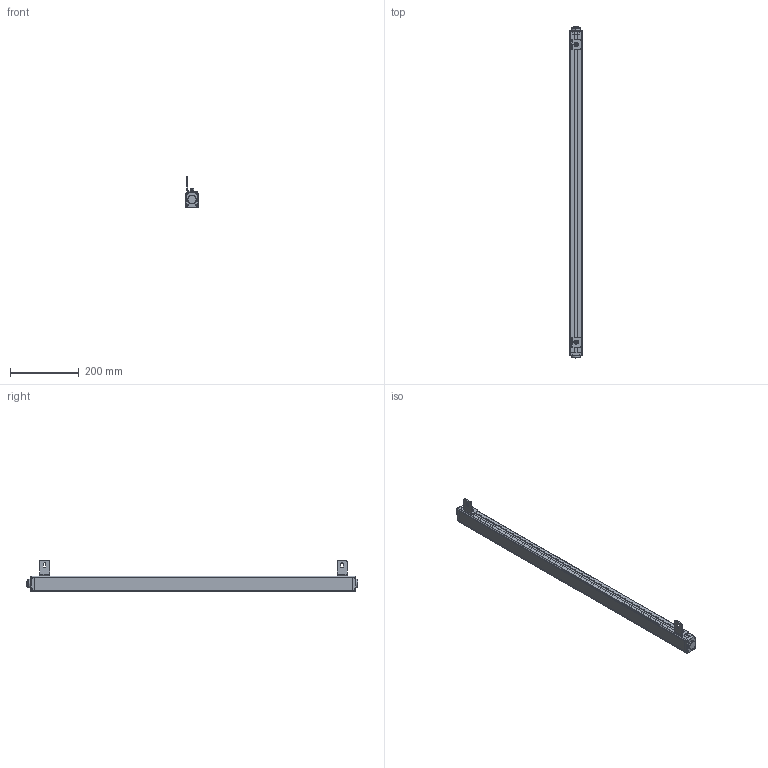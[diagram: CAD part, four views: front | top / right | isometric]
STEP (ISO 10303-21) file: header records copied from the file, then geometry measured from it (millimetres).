
FILE_DESCRIPTION((''),'2;1');
FILE_NAME('ESCL-00_ASM','2021-07-17T12:19:39',('18720616900'),(''),'CREO PARAMETRIC BY PTC INC, 2019010','CREO PARAMETRIC BY PTC INC, 2019010','');
FILE_SCHEMA(('CONFIG_CONTROL_DESIGN'));
Products named in the file (12): ESCL-00; ESCL-3-SOLID1000; ESCL-4-SOLID1000; HKCT1_-4-SOLID1; L10001; M6-8--0001; M6-1--00; M6-1-00; 00; M6-80001_ASM; L1--0001_ASM; ESCL-00_ASM
Assembly tree (12 placements, depth 4):
  ESCL-00_ASM
    ESCL-00
    ESCL-3-SOLID1000
    ESCL-4-SOLID1000
    HKCT1_-4-SOLID1
    L1--0001_ASM  x2
      L10001
      M6-80001_ASM
        M6-8--0001
        M6-1--00
        M6-1-00
        00
Bounding box: 36.1 x 965.1 x 91.11 mm (x, y, z)
Volume: 1377179.7 mm3; surface area: 209622.2 mm2
Topology: 14 solids, 14 shells, 625 faces, 1645 edges, 1070 vertices
Faces by surface type: plane 226, cylinder 208, cone 78, bspline 66, torus 47
Entity records: 76177 total; most frequent: CARTESIAN_POINT 63991, ORIENTED_EDGE 2664, DIRECTION 2275, EDGE_CURVE 1332, VERTEX_POINT 872, AXIS2_PLACEMENT_3D 816, VECTOR 643, LINE 643
